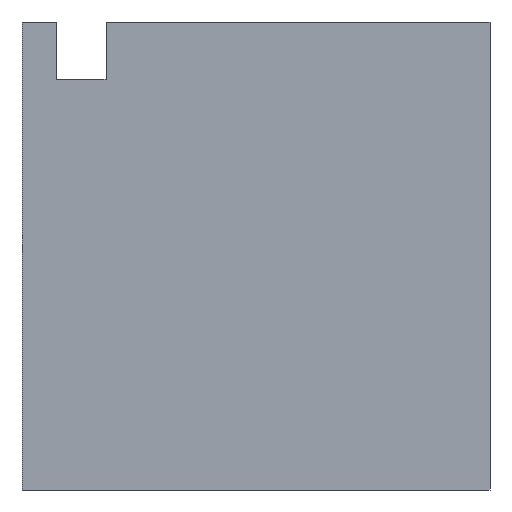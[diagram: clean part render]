
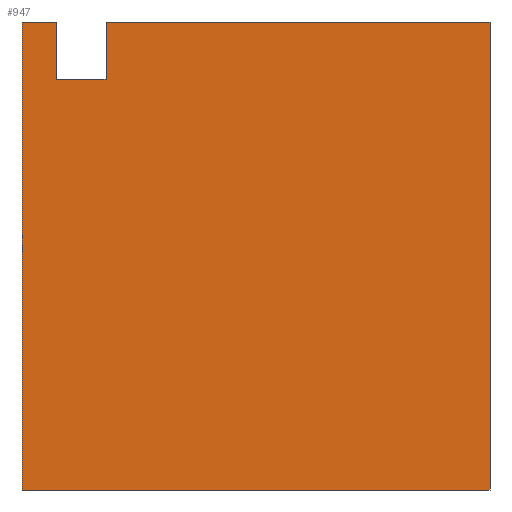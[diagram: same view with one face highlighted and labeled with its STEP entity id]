
A CAD part, front view. The second image highlights one B-rep face of the part: STEP entity #947.
In plain terms, the highlighted planar face has unit normal (0, -1, 0).
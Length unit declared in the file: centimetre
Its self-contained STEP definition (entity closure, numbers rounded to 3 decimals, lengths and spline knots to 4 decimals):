
#4 = LINE ( 'NONE', #548, #461 ) ;
#41 = CARTESIAN_POINT ( 'NONE',  ( 1000., 0., 1000. ) ) ;
#53 = LINE ( 'NONE', #416, #614 ) ;
#59 = DIRECTION ( 'NONE',  ( 1., 0., 0. ) ) ;
#92 = AXIS2_PLACEMENT_3D ( 'NONE', #904, #824, #918 ) ;
#127 = CARTESIAN_POINT ( 'NONE',  ( 0., 0., 0. ) ) ;
#134 = DIRECTION ( 'NONE',  ( 1., 0., 0. ) ) ;
#145 = DIRECTION ( 'NONE',  ( 0., 0., -1. ) ) ;
#161 = EDGE_CURVE ( 'NONE', #629, #635, #589, .T. ) ;
#200 = VERTEX_POINT ( 'NONE', #857 ) ;
#217 = VERTEX_POINT ( 'NONE', #413 ) ;
#256 = VECTOR ( 'NONE', #312, 100. ) ;
#263 = PLANE ( 'NONE',  #92 ) ;
#274 = DIRECTION ( 'NONE',  ( 0., 0., -1. ) ) ;
#312 = DIRECTION ( 'NONE',  ( 0., 0., -1. ) ) ;
#319 = LINE ( 'NONE', #1018, #497 ) ;
#360 = ORIENTED_EDGE ( 'NONE', *, *, #420, .F. ) ;
#379 = ORIENTED_EDGE ( 'NONE', *, *, #484, .F. ) ;
#386 = CARTESIAN_POINT ( 'NONE',  ( 0., 0., 1000. ) ) ;
#413 = CARTESIAN_POINT ( 'NONE',  ( 179.5165, 0., 877.3404 ) ) ;
#416 = CARTESIAN_POINT ( 'NONE',  ( 0., 0., 1000. ) ) ;
#420 = EDGE_CURVE ( 'NONE', #217, #200, #4, .T. ) ;
#423 = EDGE_LOOP ( 'NONE', ( #996, #379, #836, #513, #828, #661, #902, #360 ) ) ;
#435 = VERTEX_POINT ( 'NONE', #127 ) ;
#437 = LINE ( 'NONE', #1054, #729 ) ;
#461 = VECTOR ( 'NONE', #645, 100. ) ;
#484 = EDGE_CURVE ( 'NONE', #933, #695, #1097, .T. ) ;
#497 = VECTOR ( 'NONE', #134, 100. ) ;
#513 = ORIENTED_EDGE ( 'NONE', *, *, #1104, .T. ) ;
#547 = DIRECTION ( 'NONE',  ( 1., 0., 0. ) ) ;
#548 = CARTESIAN_POINT ( 'NONE',  ( 179.5165, 0., 877.3404 ) ) ;
#589 = LINE ( 'NONE', #41, #829 ) ;
#591 = EDGE_CURVE ( 'NONE', #695, #217, #319, .T. ) ;
#592 = CARTESIAN_POINT ( 'NONE',  ( 1000., 0., 0. ) ) ;
#614 = VECTOR ( 'NONE', #684, 100. ) ;
#629 = VERTEX_POINT ( 'NONE', #682 ) ;
#635 = VERTEX_POINT ( 'NONE', #592 ) ;
#645 = DIRECTION ( 'NONE',  ( 0., 0., 1. ) ) ;
#661 = ORIENTED_EDGE ( 'NONE', *, *, #161, .F. ) ;
#682 = CARTESIAN_POINT ( 'NONE',  ( 1000., 0., 1000. ) ) ;
#684 = DIRECTION ( 'NONE',  ( 1., 0., 0. ) ) ;
#688 = VECTOR ( 'NONE', #274, 100. ) ;
#695 = VERTEX_POINT ( 'NONE', #1157 ) ;
#709 = EDGE_CURVE ( 'NONE', #435, #635, #437, .T. ) ;
#729 = VECTOR ( 'NONE', #59, 100. ) ;
#732 = CARTESIAN_POINT ( 'NONE',  ( 0., 0., 1000. ) ) ;
#744 = LINE ( 'NONE', #732, #946 ) ;
#817 = CARTESIAN_POINT ( 'NONE',  ( 74.0725, 0., 1000. ) ) ;
#824 = DIRECTION ( 'NONE',  ( 0., 1., 0. ) ) ;
#828 = ORIENTED_EDGE ( 'NONE', *, *, #709, .T. ) ;
#829 = VECTOR ( 'NONE', #145, 100. ) ;
#836 = ORIENTED_EDGE ( 'NONE', *, *, #936, .F. ) ;
#857 = CARTESIAN_POINT ( 'NONE',  ( 179.5165, 0., 1000. ) ) ;
#902 = ORIENTED_EDGE ( 'NONE', *, *, #995, .F. ) ;
#904 = CARTESIAN_POINT ( 'NONE',  ( 0., 0., 1000. ) ) ;
#918 = DIRECTION ( 'NONE',  ( 0., 0., 1. ) ) ;
#919 = CARTESIAN_POINT ( 'NONE',  ( 74.0725, 0., 877.3404 ) ) ;
#933 = VERTEX_POINT ( 'NONE', #817 ) ;
#936 = EDGE_CURVE ( 'NONE', #1112, #933, #744, .T. ) ;
#946 = VECTOR ( 'NONE', #547, 100. ) ;
#947 = ADVANCED_FACE ( 'NONE', ( #1082 ), #263, .F. ) ;
#995 = EDGE_CURVE ( 'NONE', #200, #629, #53, .T. ) ;
#996 = ORIENTED_EDGE ( 'NONE', *, *, #591, .F. ) ;
#1013 = LINE ( 'NONE', #386, #256 ) ;
#1018 = CARTESIAN_POINT ( 'NONE',  ( 74.0725, 0., 877.3404 ) ) ;
#1032 = CARTESIAN_POINT ( 'NONE',  ( 0., 0., 1000. ) ) ;
#1054 = CARTESIAN_POINT ( 'NONE',  ( 0., 0., 0. ) ) ;
#1082 = FACE_OUTER_BOUND ( 'NONE', #423, .T. ) ;
#1097 = LINE ( 'NONE', #919, #688 ) ;
#1104 = EDGE_CURVE ( 'NONE', #1112, #435, #1013, .T. ) ;
#1112 = VERTEX_POINT ( 'NONE', #1032 ) ;
#1157 = CARTESIAN_POINT ( 'NONE',  ( 74.0725, 0., 877.3404 ) ) ;
